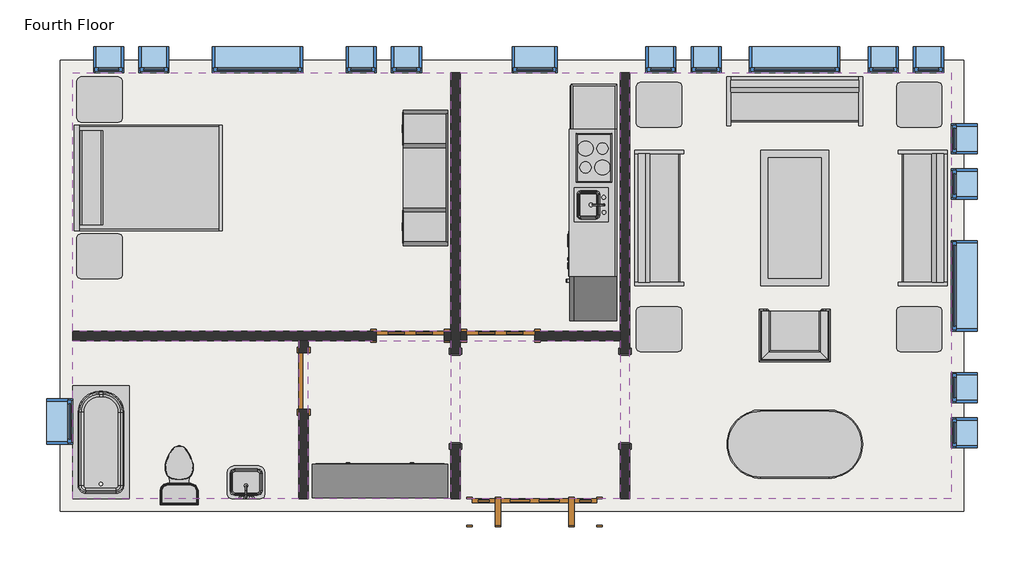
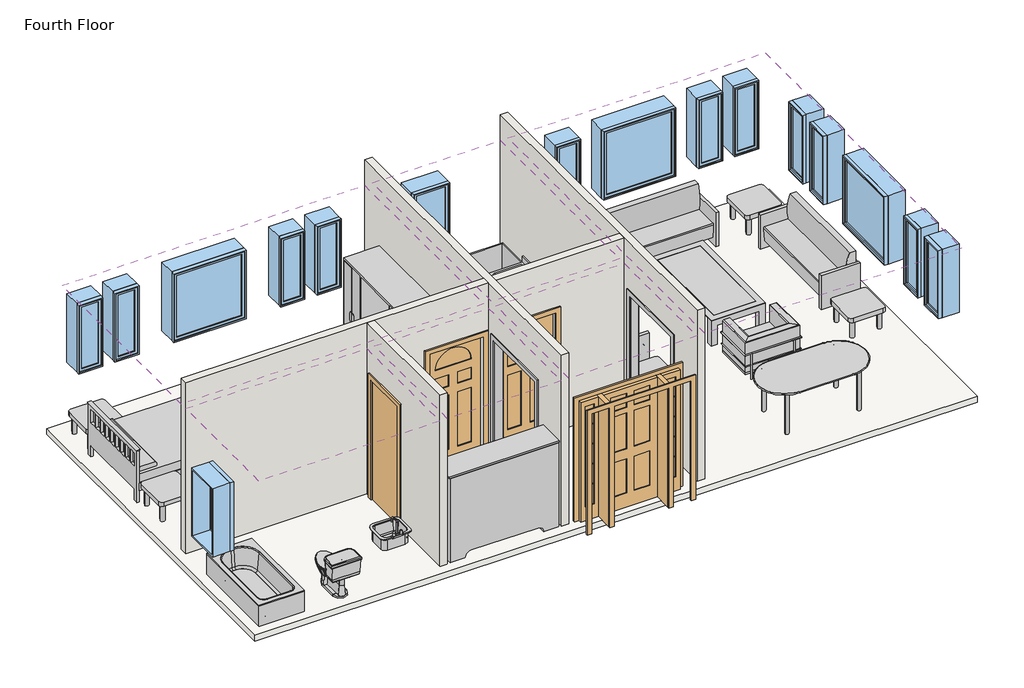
# One storey: 17 windows, 15 furniture elements, 6 coverings, 5 walls, 4 doors, 3 flow terminals, 3 proxies, 1 slab.
"""IFC4 building model written with IfcOpenShell, lengths in millimetres."""

from ifc_helpers import new_model, si_unit, frame, origin, place, context, project, spatial, polyline, outline, extrude, faceted_brep, transform, mapped, element, save
from components import proxy_64a468c4, proxy_f44482cc, door_829da954, door_2e3b4da2, door_4d6c7550, door_dba5aa2e, flow_terminal_0aeb31e3, toilet_domestic_3d_toilet_domestic_3d_f7549cf7, toilet_domestic_3d_toilet_domestic_3d_183bbd19, tub_rectangular_3d_tub_rectangular_3d_0be0b2e8, furniture_096e7f55, chair_corbu_chair_corbu_2764bdef, furniture_7c473f12, furniture_ddc78764, furniture_4ef38d96, furniture_cd93a443, furniture_8c0aa46a, furniture_3a588284, furniture_1befe2a2, window_da97879f, window_d61ef850, window_60baf983, window_6eb97611

model = new_model("IFC4")

# Units and contexts
model_context = context("Model", 3, world=origin())
ifc_project = project(units=[si_unit("LENGTHUNIT", "METRE", prefix="MILLI")], contexts=[model_context])

# Site, building, storey
site = spatial("IfcSite", under=ifc_project)
building = spatial("IfcBuilding", under=site)
storey = spatial("IfcBuildingStorey", under=building, Name="Fourth Floor", Elevation=9144.0)

# Proxies
placement = place(None, origin())
proxy_shape = proxy_64a468c4(model_context)
element("IfcBuildingElementProxy", 1, Name="Kitchenette - Medium : 8'6\"", ObjectType="Kitchenette - Medium : 8'6\"", at=placement, inside=storey, context=model_context, shape_type="MappedRepresentation", body=[
    mapped(proxy_shape, transform((-3887.7589563, 8837.7956433, 9144.0), x_axis=(0.0, -1.0, 0.0), y_axis=(1.0, 0.0, 0.0), z_axis=(0.0, 0.0, 1.0))),
])
proxy_2_shape = proxy_f44482cc(model_context)
element("IfcBuildingElementProxy", 2, Name="Opening-Cased : 48\" x 84\"", ObjectType="Opening-Cased : 48\" x 84\"", at=placement, inside=storey, context=model_context, shape_type="MappedRepresentation", body=[
    mapped(proxy_2_shape, transform((-3773.4589563, 5882.4203434, 9144.0), x_axis=(0.0, 1.0, 0.0), y_axis=(-1.0, 0.0, 0.0), z_axis=(0.0, 0.0, 1.0))),
])
element("IfcBuildingElementProxy", 3, Name="Opening-Cased : 48\" x 84\"", ObjectType="Opening-Cased : 48\" x 84\"", at=placement, inside=storey, context=model_context, shape_type="MappedRepresentation", body=[
    mapped(proxy_2_shape, transform((-6059.4589563, 5866.04303, 9144.0), x_axis=(0.0, -1.0, 0.0), y_axis=(1.0, 0.0, 0.0), z_axis=(0.0, 0.0, 1.0))),
])

# Coverings
element("IfcCovering", 4, ObjectType="GWB on Mtl. Stud", at=placement, inside=storey, context=model_context, shape_type="SweptSolid", body=[
    extrude(outline(polyline([(-11217.2464563, 10270.0191867), (-6122.9589563, 10270.0191867), (-6122.9589563, 6787.0441867), (-11217.2464563, 6787.0441867), (-11217.2464563, 10270.0191867)])), frame((0.0, 0.0, 11734.8), z_axis=(0.0, 0.0, 1.0), x_axis=(1.0, 0.0, 0.0)), (0.0, 0.0, 1.0), 107.95),
])
element("IfcCovering", 5, ObjectType="GWB on Mtl. Stud", at=placement, inside=storey, context=model_context, shape_type="SweptSolid", body=[
    extrude(outline(polyline([(-5995.9589563, 6787.0441867), (-5995.9589563, 10270.0191867), (-3836.9589563, 10270.0191867), (-3836.9589563, 6787.0441867), (-5995.9589563, 6787.0441867)])), frame((0.0, 0.0, 11734.8), z_axis=(0.0, 0.0, 1.0), x_axis=(1.0, 0.0, 0.0)), (0.0, 0.0, 1.0), 107.95),
])
element("IfcCovering", 6, ObjectType="GWB on Mtl. Stud", at=placement, inside=storey, context=model_context, shape_type="SweptSolid", body=[
    extrude(outline(polyline([(-3709.9589563, 4526.4441867), (-3709.9589563, 10270.0191867), (622.3285437, 10270.0191867), (622.3285437, 4526.4441867), (-3709.9589563, 4526.4441867)])), frame((0.0, 0.0, 11734.8), z_axis=(0.0, 0.0, 1.0), x_axis=(1.0, 0.0, 0.0)), (0.0, 0.0, 1.0), 107.95),
])
element("IfcCovering", 7, ObjectType="GWB on Mtl. Stud", at=placement, inside=storey, context=model_context, shape_type="SweptSolid", body=[
    extrude(outline(polyline([(-3836.9589563, 4526.4441867), (-5995.9589563, 4526.4441867), (-5995.9589563, 6660.0441867), (-3836.9589563, 6660.0441867), (-3836.9589563, 4526.4441867)])), frame((0.0, 0.0, 11734.8), z_axis=(0.0, 0.0, 1.0), x_axis=(1.0, 0.0, 0.0)), (0.0, 0.0, 1.0), 107.95),
])
element("IfcCovering", 8, ObjectType="GWB on Mtl. Stud", at=placement, inside=storey, context=model_context, shape_type="SweptSolid", body=[
    extrude(outline(polyline([(-6122.9589563, 4526.4441867), (-8042.2464563, 4526.4441867), (-8042.2464563, 6660.0441867), (-6122.9589563, 6660.0441867), (-6122.9589563, 4526.4441867)])), frame((0.0, 0.0, 11734.8), z_axis=(0.0, 0.0, 1.0), x_axis=(1.0, 0.0, 0.0)), (0.0, 0.0, 1.0), 107.95),
])
element("IfcCovering", 9, ObjectType="GWB on Mtl. Stud", at=placement, inside=storey, context=model_context, shape_type="SweptSolid", body=[
    extrude(outline(polyline([(-8169.2464563, 6660.0441867), (-8169.2464563, 4526.4441867), (-11217.2464563, 4526.4441867), (-11217.2464563, 6660.0441867), (-8169.2464563, 6660.0441867)])), frame((0.0, 0.0, 11734.8), z_axis=(0.0, 0.0, 1.0), x_axis=(1.0, 0.0, 0.0)), (0.0, 0.0, 1.0), 107.95),
])

# Doors
door_shape = door_829da954(model_context)
element("IfcDoor", 10, ObjectType="Single-Decorative 2 : 36\" x 84\"", at=placement, inside=storey, context=model_context, shape_type="MappedRepresentation", body=[
    mapped(door_shape, transform((-5449.8589563, 6723.5441867, 9144.0), x_axis=(-1.0, 0.0, 0.0), y_axis=(0.0, -1.0, 0.0), z_axis=(0.0, 0.0, 1.0))),
])
door_2_shape = door_2e3b4da2(model_context)
element("IfcDoor", 11, ObjectType="Single-Decorative 2 : 36\" x 84\"", at=placement, inside=storey, context=model_context, shape_type="MappedRepresentation", body=[
    mapped(door_2_shape, transform((-6669.0589563, 6723.5441867, 9144.0), x_axis=(1.0, 0.0, 0.0), y_axis=(0.0, 1.0, 0.0), z_axis=(0.0, 0.0, 1.0))),
])
door_3_shape = door_4d6c7550(model_context)
element("IfcDoor", 12, ObjectType="Single-Flush : 30\" x 84\"", at=placement, inside=storey, context=model_context, shape_type="MappedRepresentation", body=[
    mapped(door_3_shape, transform((-8105.7464563, 6113.9441867, 9144.0), x_axis=(0.0, 1.0, 0.0), y_axis=(-1.0, 0.0, 0.0), z_axis=(0.0, 0.0, 1.0))),
])
door_4_shape = door_dba5aa2e(model_context)
element("IfcDoor", 13, ObjectType="Single-Raised Panel with Sidelights : 36\" x 84\"", at=placement, inside=storey, context=model_context, shape_type="MappedRepresentation", body=[
    mapped(door_4_shape, transform((-4992.6589563, 4350.2316867, 9144.0), x_axis=(-1.0, 0.0, 0.0), y_axis=(0.0, -1.0, 0.0), z_axis=(0.0, 0.0, 1.0))),
])

# Flow terminals
flow_terminal_shape = flow_terminal_0aeb31e3(model_context)
element("IfcFlowTerminal", 14, ObjectType="Sink Vanity-Square : 24\" x 19\"", at=placement, inside=storey, context=model_context, shape_type="MappedRepresentation", body=[
    mapped(flow_terminal_shape, transform((-8864.7572157, 4706.5895878, 9144.0), x_axis=(-1.0, 0.0, 0.0), y_axis=(0.0, -1.0, 0.0), z_axis=(0.0, 0.0, 1.0))),
])
toilet_domestic_3d_toilet_domestic_3d_shape = toilet_domestic_3d_toilet_domestic_3d_f7549cf7(model_context)
toilet_domestic_3d_toilet_domestic_3d_2_shape = toilet_domestic_3d_toilet_domestic_3d_183bbd19(model_context)
element("IfcFlowTerminal", 15, ObjectType="Toilet-Domestic-3D : Toilet-Domestic-3D", at=placement, inside=storey, context=model_context, shape_type="MappedRepresentation", body=[
    mapped(toilet_domestic_3d_toilet_domestic_3d_shape, transform((-9782.1466587, 4940.866411, 9144.0), x_axis=(-1.0000000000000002, 0.0, 0.0), y_axis=(0.0, -1.0000000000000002, 0.0), z_axis=(0.0, 0.0, 1.0))),
    mapped(toilet_domestic_3d_toilet_domestic_3d_2_shape, transform((-9782.1466587, 4940.866411, 9144.0), x_axis=(-1.0000000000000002, 0.0, 0.0), y_axis=(0.0, -1.0000000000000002, 0.0), z_axis=(0.0, 0.0, 1.0))),
])
tub_rectangular_3d_tub_rectangular_3d_shape = tub_rectangular_3d_tub_rectangular_3d_0be0b2e8(model_context)
element("IfcFlowTerminal", 16, ObjectType="Tub-Rectangular-3D : Tub-Rectangular-3D", at=placement, inside=storey, context=model_context, shape_type="MappedRepresentation", body=[
    mapped(tub_rectangular_3d_tub_rectangular_3d_shape, transform((-11393.4589563, 5637.0471554, 9144.0), x_axis=(0.0, 1.0, 0.0), y_axis=(-1.0, 0.0, 0.0), z_axis=(0.0, 0.0, 1.0))),
])

# Furniture
furniture_shape = furniture_096e7f55(model_context)
element("IfcFurniture", 17, ObjectType="Bed-Shaker : Double 56\" x 78\"", at=placement, inside=storey, context=model_context, shape_type="MappedRepresentation", body=[
    mapped(furniture_shape, transform((-11183.1982802, 8871.8755561, 9144.0), x_axis=(0.0, 1.0, 0.0), y_axis=(-1.0, 0.0, 0.0), z_axis=(0.0, 0.0, 1.0))),
])
chair_corbu_chair_corbu_shape = chair_corbu_chair_corbu_2764bdef(model_context)
element("IfcFurniture", 18, ObjectType="Chair-Corbu : Chair-Corbu", at=placement, inside=storey, context=model_context, shape_type="MappedRepresentation", body=[
    mapped(chair_corbu_chair_corbu_shape, transform((-914.0851858, 7193.4962359, 9144.0), x_axis=(-1.0, 0.0, 0.0), y_axis=(0.0, -1.0, 0.0), z_axis=(0.0, 0.0, 1.0))),
])
furniture_2_shape = furniture_7c473f12(model_context)
element("IfcFurniture", 19, ObjectType="Dresser : 72\" x 60\" x 18\"", at=placement, inside=storey, context=model_context, shape_type="MappedRepresentation", body=[
    mapped(furniture_2_shape, transform((-7344.6522161, 4404.5812326, 9144.0), x_axis=(-1.0, 0.0, 0.0), y_axis=(0.0, -1.0, 0.0), z_axis=(0.0, 0.0, 1.0))),
])
furniture_3_shape = furniture_ddc78764(model_context)
element("IfcFurniture", 20, ObjectType="Entertainment Center : 72\" x 72\" x 24\"", at=placement, inside=storey, context=model_context, shape_type="MappedRepresentation", body=[
    mapped(furniture_3_shape, transform((-6059.4589563, 8852.8255561, 9144.0), x_axis=(0.0, -1.0, 0.0), y_axis=(1.0, 0.0, 0.0), z_axis=(0.0, 0.0, 1.0))),
])
furniture_4_shape = furniture_4ef38d96(model_context)
element("IfcFurniture", 21, ObjectType="Sofa : 72\"", at=placement, inside=storey, context=model_context, shape_type="MappedRepresentation", body=[
    mapped(furniture_4_shape, transform((-1557.8294481, 9741.2775883, 9144.0), x_axis=(1.0, 0.0, 0.0), y_axis=(0.0, 1.0, 0.0), z_axis=(0.0, 0.0, 1.0))),
])
element("IfcFurniture", 22, ObjectType="Sofa : 72\"", at=placement, inside=storey, context=model_context, shape_type="MappedRepresentation", body=[
    mapped(furniture_4_shape, transform((93.5869453, 8383.0021785, 9144.0), x_axis=(0.0, -1.0, 0.0), y_axis=(1.0, 0.0, 0.0), z_axis=(0.0, 0.0, 1.0))),
])
element("IfcFurniture", 23, ObjectType="Sofa : 72\"", at=placement, inside=storey, context=model_context, shape_type="MappedRepresentation", body=[
    mapped(furniture_4_shape, transform((-3170.104858, 8242.2611949, 9144.0), x_axis=(0.0, 1.0, 0.0), y_axis=(-1.0, 0.0, 0.0), z_axis=(0.0, 0.0, 1.0))),
])
furniture_5_shape = furniture_cd93a443(model_context)
element("IfcFurniture", 24, ObjectType="Table-Coffee : 36\" x 72\" x 18\"", at=placement, inside=storey, context=model_context, shape_type="MappedRepresentation", body=[
    mapped(furniture_5_shape, transform((-1582.6700341, 8330.8974534, 9144.0), x_axis=(0.0, -1.0, 0.0), y_axis=(1.0, 0.0, 0.0), z_axis=(0.0, 0.0, 1.0))),
])
furniture_6_shape = furniture_8c0aa46a(model_context)
element("IfcFurniture", 25, ObjectType="Table-Dining Oval : 36\" x 72\"", at=placement, inside=storey, context=model_context, shape_type="MappedRepresentation", body=[
    mapped(furniture_6_shape, transform((-1085.6392842, 5622.7300473, 9144.0), x_axis=(1.0, 0.0, 0.0), y_axis=(0.0, 1.0, 0.0), z_axis=(0.0, 0.0, 1.0))),
])
furniture_7_shape = furniture_3a588284(model_context)
element("IfcFurniture", 26, ObjectType="Table-End : 24\" x 24\"", at=placement, inside=storey, context=model_context, shape_type="MappedRepresentation", body=[
    mapped(furniture_7_shape, transform((-119.5925866, 9684.2316867, 9144.0), x_axis=(1.0, 0.0, 0.0), y_axis=(0.0, 1.0, 0.0), z_axis=(0.0, 0.0, 1.0))),
])
element("IfcFurniture", 27, ObjectType="Table-End : 24\" x 24\"", at=placement, inside=storey, context=model_context, shape_type="MappedRepresentation", body=[
    mapped(furniture_7_shape, transform((-3624.7925866, 9684.2316867, 9144.0), x_axis=(1.0, 0.0, 0.0), y_axis=(0.0, 1.0, 0.0), z_axis=(0.0, 0.0, 1.0))),
])
element("IfcFurniture", 28, ObjectType="Table-End : 24\" x 24\"", at=placement, inside=storey, context=model_context, shape_type="MappedRepresentation", body=[
    mapped(furniture_7_shape, transform((-3624.7925866, 6660.0441867, 9144.0), x_axis=(1.0, 0.0, 0.0), y_axis=(0.0, 1.0, 0.0), z_axis=(0.0, 0.0, 1.0))),
])
element("IfcFurniture", 29, ObjectType="Table-End : 24\" x 24\"", at=placement, inside=storey, context=model_context, shape_type="MappedRepresentation", body=[
    mapped(furniture_7_shape, transform((-119.5925866, 6660.0441867, 9144.0), x_axis=(1.0, 0.0, 0.0), y_axis=(0.0, 1.0, 0.0), z_axis=(0.0, 0.0, 1.0))),
])
element("IfcFurniture", 30, ObjectType="Table-End : 24\" x 24\"", at=placement, inside=storey, context=model_context, shape_type="MappedRepresentation", body=[
    mapped(furniture_7_shape, transform((-11164.2346356, 9756.0737357, 9144.0), x_axis=(1.0, 0.0, 0.0), y_axis=(0.0, 1.0, 0.0), z_axis=(0.0, 0.0, 1.0))),
])
furniture_8_shape = furniture_1befe2a2(model_context)
element("IfcFurniture", 31, ObjectType="Table-End : 24\" x 24\"", at=placement, inside=storey, context=model_context, shape_type="MappedRepresentation", body=[
    mapped(furniture_8_shape, transform((-11164.2346356, 7949.5773764, 9144.0), x_axis=(1.0, 0.0, 0.0), y_axis=(0.0, 1.0, 0.0), z_axis=(0.0, 0.0, 1.0))),
])

# Slab
element("IfcSlab", 32, ObjectType="LW Concrete on Metal Deck", at=placement, inside=storey, context=model_context, shape_type="SweptSolid", body=[
    extrude(outline(polyline([(787.4285437, 10435.1191867), (787.4285437, 4361.3441867), (-11382.3464563, 4361.3441867), (-11382.3464563, 10435.1191867), (787.4285437, 10435.1191867)])), frame((0.0, 0.0, 9039.225), z_axis=(0.0, 0.0, 1.0), x_axis=(1.0, 0.0, 0.0)), (0.0, 0.0, 1.0), 104.775),
])

# Walls
element("IfcWall", 33, ObjectType="Interior - 5\" Partition (2-hr)", at=placement, inside=storey, context=model_context, shape_type="Brep", body=[
    faceted_brep([(-3836.9589563, 10270.0191867, 9144.0), (-3836.9589563, 6787.0441867, 9144.0), (-3836.9589563, 6660.0441867, 9144.0), (-3836.9589563, 6483.8316867, 9144.0), (-3836.9589563, 6483.8316867, 11277.6), (-3836.9589563, 5264.6316867, 11277.6), (-3836.9589563, 5264.6316867, 9144.0), (-3836.9589563, 4526.4441867, 9144.0), (-3836.9589563, 4526.4441867, 12192.0), (-3836.9589563, 6660.0441867, 12192.0), (-3836.9589563, 6787.0441867, 12192.0), (-3836.9589563, 10270.0191867, 12192.0), (-3709.9589563, 6483.8316867, 11277.6), (-3709.9589563, 6483.8316867, 9144.0), (-3709.9589563, 10270.0191867, 9144.0), (-3709.9589563, 10270.0191867, 12192.0), (-3709.9589563, 4526.4441867, 12192.0), (-3709.9589563, 4526.4441867, 9144.0), (-3709.9589563, 5264.6316867, 9144.0), (-3709.9589563, 5264.6316867, 11277.6)], [[[0, 1, 2, 3, 4, 5, 6, 7, 8, 9, 10, 11]], [[12, 13, 14, 15, 16, 17, 18, 19]], [[14, 13, 3, 2, 1, 0]], [[18, 17, 7, 6]], [[11, 10, 9, 8, 16, 15]], [[0, 11, 15, 14]], [[8, 7, 17, 16]], [[6, 5, 19, 18]], [[4, 3, 13, 12]], [[5, 4, 12, 19]]]),
])
element("IfcWall", 34, ObjectType="Interior - 5\" Partition (2-hr)", at=placement, inside=storey, context=model_context, shape_type="Brep", body=[
    faceted_brep([(-6122.9589563, 5264.6316867, 11277.6), (-6122.9589563, 5264.6316867, 9144.0), (-6122.9589563, 4526.4441867, 9144.0), (-6122.9589563, 4526.4441867, 12192.0), (-6122.9589563, 6660.0441867, 12192.0), (-6122.9589563, 6787.0441867, 12192.0), (-6122.9589563, 10270.0191867, 12192.0), (-6122.9589563, 10270.0191867, 9144.0), (-6122.9589563, 6787.0441867, 9144.0), (-6122.9589563, 6660.0441867, 9144.0), (-6122.9589563, 6483.8316867, 9144.0), (-6122.9589563, 6483.8316867, 11277.6), (-5995.9589563, 4526.4441867, 9144.0), (-5995.9589563, 5264.6316867, 9144.0), (-5995.9589563, 5264.6316867, 11277.6), (-5995.9589563, 6483.8316867, 11277.6), (-5995.9589563, 6483.8316867, 9144.0), (-5995.9589563, 6660.0441867, 9144.0), (-5995.9589563, 6787.0441867, 9144.0), (-5995.9589563, 10270.0191867, 9144.0), (-5995.9589563, 10270.0191867, 12192.0), (-5995.9589563, 6787.0441867, 12192.0), (-5995.9589563, 6660.0441867, 12192.0), (-5995.9589563, 4526.4441867, 12192.0)], [[[0, 1, 2, 3, 4, 5, 6, 7, 8, 9, 10, 11]], [[12, 13, 14, 15, 16, 17, 18, 19, 20, 21, 22, 23]], [[2, 1, 13, 12]], [[10, 9, 8, 7, 19, 18, 17, 16]], [[6, 5, 4, 3, 23, 22, 21, 20]], [[7, 6, 20, 19]], [[3, 2, 12, 23]], [[16, 15, 11, 10]], [[14, 13, 1, 0]], [[15, 14, 0, 11]]]),
])
element("IfcWall", 35, ObjectType="Interior - 5\" Partition (2-hr)", at=placement, inside=storey, context=model_context, shape_type="Brep", body=[
    faceted_brep([(-6211.8589563, 6660.0441867, 11277.6), (-6211.8589563, 6660.0441867, 9144.0), (-6122.9589563, 6660.0441867, 9144.0), (-6122.9589563, 6660.0441867, 12192.0), (-8042.2464563, 6660.0441867, 12192.0), (-8169.2464563, 6660.0441867, 12192.0), (-11217.2464563, 6660.0441867, 12192.0), (-11217.2464563, 6660.0441867, 9144.0), (-8169.2464563, 6660.0441867, 9144.0), (-8042.2464563, 6660.0441867, 9144.0), (-7126.2589563, 6660.0441867, 9144.0), (-7126.2589563, 6660.0441867, 11277.6), (-6122.9589563, 6787.0441867, 9144.0), (-6211.8589563, 6787.0441867, 9144.0), (-6211.8589563, 6787.0441867, 11277.6), (-7126.2589563, 6787.0441867, 11277.6), (-7126.2589563, 6787.0441867, 9144.0), (-11217.2464563, 6787.0441867, 9144.0), (-11217.2464563, 6787.0441867, 12192.0), (-6122.9589563, 6787.0441867, 12192.0)], [[[0, 1, 2, 3, 4, 5, 6, 7, 8, 9, 10, 11]], [[12, 13, 14, 15, 16, 17, 18, 19]], [[2, 1, 13, 12]], [[10, 9, 8, 7, 17, 16]], [[6, 5, 4, 3, 19, 18]], [[3, 2, 12, 19]], [[7, 6, 18, 17]], [[14, 13, 1, 0]], [[15, 14, 0, 11]], [[16, 15, 11, 10]]]),
])
element("IfcWall", 36, ObjectType="Interior - 5\" Partition (2-hr)", at=placement, inside=storey, context=model_context, shape_type="SweptSolid", body=[
    extrude(outline(polyline([(6660.0441867, 9144.0), (6494.9441867, 9144.0), (6494.9441867, 11277.6), (5732.9441867, 11277.6), (5732.9441867, 9144.0), (4526.4441867, 9144.0), (4526.4441867, 12192.0), (6660.0441867, 12192.0), (6660.0441867, 9144.0)])), frame((-8169.2464563, 0.0, 0.0), z_axis=(1.0, 0.0, 0.0), x_axis=(0.0, 1.0, 0.0)), (0.0, 0.0, 1.0), 127.0),
])
element("IfcWall", 37, ObjectType="Interior - 5\" Partition (2-hr)", at=placement, inside=storey, context=model_context, shape_type="SweptSolid", body=[
    extrude(outline(polyline([(9144.0, -5995.9589563), (9144.0, -5907.0589563), (11277.6, -5907.0589563), (11277.6, -4992.6589563), (9144.0, -4992.6589563), (9144.0, -3836.9589563), (12192.0, -3836.9589563), (12192.0, -5995.9589563), (9144.0, -5995.9589563)])), frame((0.0, 6660.0441867, 0.0), z_axis=(0.0, 1.0, 0.0), x_axis=(0.0, 0.0, 1.0)), (0.0, 0.0, 1.0), 127.0),
])

# Windows
window_shape = window_da97879f(model_context)
element("IfcWindow", 38, ObjectType="Fixed : 16\" x 48\"", at=placement, inside=storey, context=model_context, shape_type="MappedRepresentation", body=[
    mapped(window_shape, transform((-10771.1589563, 10446.2316867, 9144.0), x_axis=(-1.0, 0.0, 0.0), y_axis=(0.0, -1.0, 0.0), z_axis=(0.0, 0.0, 1.0))),
])
element("IfcWindow", 39, ObjectType="Fixed : 16\" x 48\"", at=placement, inside=storey, context=model_context, shape_type="MappedRepresentation", body=[
    mapped(window_shape, transform((-10161.5589563, 10446.2316867, 9144.0), x_axis=(-1.0, 0.0, 0.0), y_axis=(0.0, -1.0, 0.0), z_axis=(0.0, 0.0, 1.0))),
])
element("IfcWindow", 40, ObjectType="Fixed : 16\" x 48\"", at=placement, inside=storey, context=model_context, shape_type="MappedRepresentation", body=[
    mapped(window_shape, transform((-3328.9589563, 10446.2316867, 9144.0), x_axis=(-1.0, 0.0, 0.0), y_axis=(0.0, -1.0, 0.0), z_axis=(0.0, 0.0, 1.0))),
])
element("IfcWindow", 41, ObjectType="Fixed : 16\" x 48\"", at=placement, inside=storey, context=model_context, shape_type="MappedRepresentation", body=[
    mapped(window_shape, transform((-2719.3589563, 10446.2316867, 9144.0), x_axis=(-1.0, 0.0, 0.0), y_axis=(0.0, -1.0, 0.0), z_axis=(0.0, 0.0, 1.0))),
])
element("IfcWindow", 42, ObjectType="Fixed : 16\" x 48\"", at=placement, inside=storey, context=model_context, shape_type="MappedRepresentation", body=[
    mapped(window_shape, transform((798.5410437, 9417.5316867, 9144.0), x_axis=(0.0, 1.0, 0.0), y_axis=(-1.0, 0.0, 0.0), z_axis=(0.0, 0.0, 1.0))),
])
element("IfcWindow", 43, ObjectType="Fixed : 16\" x 48\"", at=placement, inside=storey, context=model_context, shape_type="MappedRepresentation", body=[
    mapped(window_shape, transform((798.5410437, 8807.9316867, 9144.0), x_axis=(0.0, 1.0, 0.0), y_axis=(-1.0, 0.0, 0.0), z_axis=(0.0, 0.0, 1.0))),
])
window_2_shape = window_d61ef850(model_context)
element("IfcWindow", 44, ObjectType="Fixed : 16\" x 48\"", at=placement, inside=storey, context=model_context, shape_type="MappedRepresentation", body=[
    mapped(window_2_shape, transform((-6681.7589563, 10446.2316867, 9144.0), x_axis=(1.0, 0.0, 0.0), y_axis=(0.0, 1.0, 0.0), z_axis=(0.0, 0.0, 1.0))),
])
element("IfcWindow", 45, ObjectType="Fixed : 16\" x 48\"", at=placement, inside=storey, context=model_context, shape_type="MappedRepresentation", body=[
    mapped(window_2_shape, transform((-7291.3589563, 10446.2316867, 9144.0), x_axis=(1.0, 0.0, 0.0), y_axis=(0.0, 1.0, 0.0), z_axis=(0.0, 0.0, 1.0))),
])
element("IfcWindow", 46, ObjectType="Fixed : 16\" x 48\"", at=placement, inside=storey, context=model_context, shape_type="MappedRepresentation", body=[
    mapped(window_2_shape, transform((354.0410437, 10446.2316867, 9144.0), x_axis=(1.0, 0.0, 0.0), y_axis=(0.0, 1.0, 0.0), z_axis=(0.0, 0.0, 1.0))),
])
element("IfcWindow", 47, ObjectType="Fixed : 16\" x 48\"", at=placement, inside=storey, context=model_context, shape_type="MappedRepresentation", body=[
    mapped(window_2_shape, transform((-255.5589563, 10446.2316867, 9144.0), x_axis=(1.0, 0.0, 0.0), y_axis=(0.0, 1.0, 0.0), z_axis=(0.0, 0.0, 1.0))),
])
element("IfcWindow", 48, ObjectType="Fixed : 16\" x 48\"", at=placement, inside=storey, context=model_context, shape_type="MappedRepresentation", body=[
    mapped(window_2_shape, transform((798.5410437, 5378.9316867, 9144.0), x_axis=(0.0, -1.0, 0.0), y_axis=(1.0, 0.0, 0.0), z_axis=(0.0, 0.0, 1.0))),
])
element("IfcWindow", 49, ObjectType="Fixed : 16\" x 48\"", at=placement, inside=storey, context=model_context, shape_type="MappedRepresentation", body=[
    mapped(window_2_shape, transform((798.5410437, 5988.5316867, 9144.0), x_axis=(0.0, -1.0, 0.0), y_axis=(1.0, 0.0, 0.0), z_axis=(0.0, 0.0, 1.0))),
])
window_3_shape = window_60baf983(model_context)
element("IfcWindow", 50, ObjectType="Fixed : 24\" x 48\"", at=placement, inside=storey, context=model_context, shape_type="MappedRepresentation", body=[
    mapped(window_3_shape, transform((-5030.7589563, 10446.2316867, 9144.0), x_axis=(-1.0, 0.0, 0.0), y_axis=(0.0, -1.0, 0.0), z_axis=(0.0, 0.0, 1.0))),
])
element("IfcWindow", 51, ObjectType="Fixed : 24\" x 48\"", at=placement, inside=storey, context=model_context, shape_type="MappedRepresentation", body=[
    mapped(window_3_shape, transform((-11393.4589563, 5531.3316867, 9144.0), x_axis=(0.0, -1.0, 0.0), y_axis=(1.0, 0.0, 0.0), z_axis=(0.0, 0.0, 1.0))),
])
window_4_shape = window_6eb97611(model_context)
element("IfcWindow", 52, ObjectType="Fixed : 48\" x 48\"", at=placement, inside=storey, context=model_context, shape_type="MappedRepresentation", body=[
    mapped(window_4_shape, transform((-8764.5589563, 10446.2316867, 9144.0), x_axis=(-1.0, 0.0, 0.0), y_axis=(0.0, -1.0, 0.0), z_axis=(0.0, 0.0, 1.0))),
])
element("IfcWindow", 53, ObjectType="Fixed : 48\" x 48\"", at=placement, inside=storey, context=model_context, shape_type="MappedRepresentation", body=[
    mapped(window_4_shape, transform((-1525.5589563, 10446.2316867, 9144.0), x_axis=(-1.0, 0.0, 0.0), y_axis=(0.0, -1.0, 0.0), z_axis=(0.0, 0.0, 1.0))),
])
element("IfcWindow", 54, ObjectType="Fixed : 48\" x 48\"", at=placement, inside=storey, context=model_context, shape_type="MappedRepresentation", body=[
    mapped(window_4_shape, transform((798.5410437, 7436.3316867, 9144.0), x_axis=(0.0, 1.0, 0.0), y_axis=(-1.0, 0.0, 0.0), z_axis=(0.0, 0.0, 1.0))),
])

save(model, "model.ifc")
